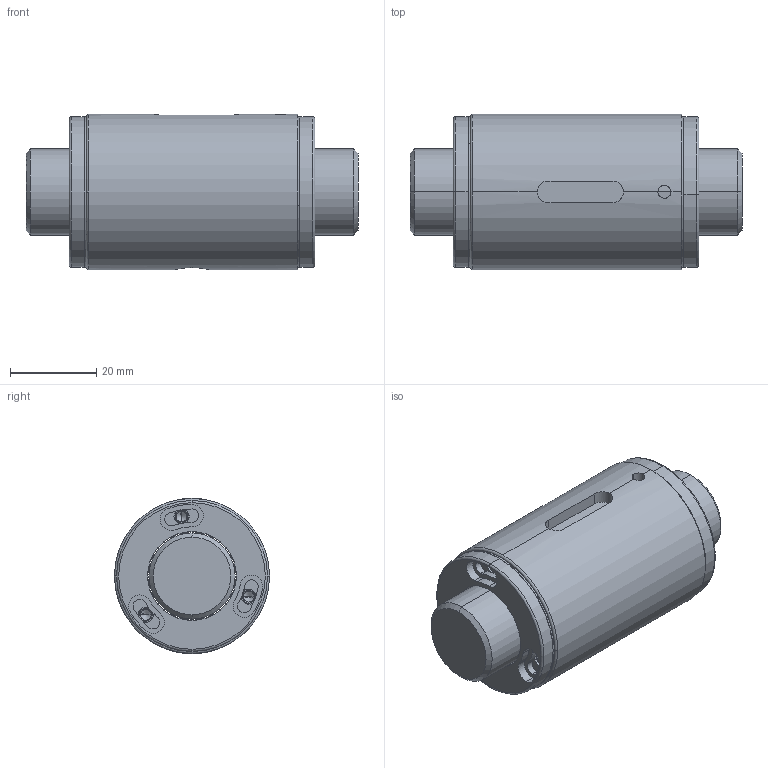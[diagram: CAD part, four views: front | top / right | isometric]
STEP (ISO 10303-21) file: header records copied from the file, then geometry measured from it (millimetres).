
FILE_DESCRIPTION (( 'STEP AP203' ), '1' );
FILE_NAME ('SCHR02010C1-C.STEP', '2020-06-17T08:48:15', ( '' ), ( '' ), 'SwSTEP 2.0', 'SolidWorks 2013', '' );
FILE_SCHEMA (( 'CONFIG_CONTROL_DESIGN' ));
Length unit declared in the file: millimetre
Products named in the file (1): SCHR02010C1-C
Bounding box: 77 x 36 x 36 mm (x, y, z)
Volume: 59418.8 mm3; surface area: 18159.7 mm2
Topology: 2 solids, 2 shells, 199 faces, 484 edges, 301 vertices
Faces by surface type: cylinder 113, plane 52, cone 28, torus 6
Entity records: 6150 total; most frequent: CARTESIAN_POINT 1203, DIRECTION 1165, ORIENTED_EDGE 944, AXIS2_PLACEMENT_3D 507, EDGE_CURVE 472, CIRCLE 307, VERTEX_POINT 301, EDGE_LOOP 227
